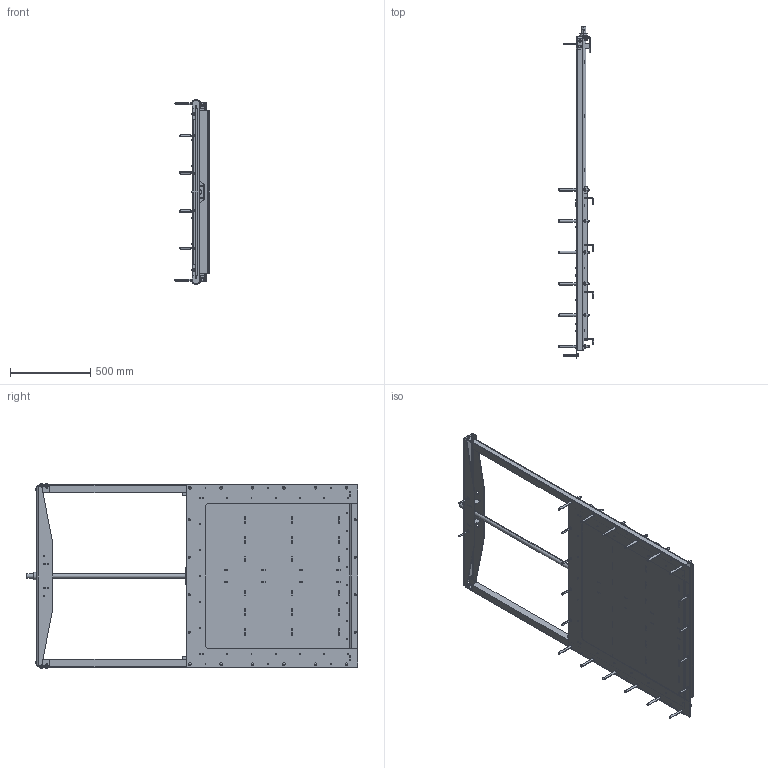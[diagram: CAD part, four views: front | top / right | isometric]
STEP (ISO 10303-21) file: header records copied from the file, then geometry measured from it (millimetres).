
FILE_DESCRIPTION (( 'STEP AP214' ), '1' );
FILE_NAME ('900x900.STEP', '2021-10-27T12:34:07', ( '' ), ( '' ), 'SwSTEP 2.0', 'SolidWorks 2020', '' );
FILE_SCHEMA (( 'AUTOMOTIVE_DESIGN' ));
Length unit declared in the file: millimetre
Products named in the file (1): 900x900
Bounding box: 219 x 2065 x 1151.8 mm (x, y, z)
Volume: 18797264.1 mm3; surface area: 5748988.7 mm2
Topology: 4 solids, 20 shells, 4155 faces, 10843 edges, 6846 vertices
Faces by surface type: cylinder 1730, plane 1458, cone 825, torus 86, sphere 32, bspline 24
Entity records: 137980 total; most frequent: CARTESIAN_POINT 38046, ORIENTED_EDGE 21418, DIRECTION 19910, EDGE_CURVE 10709, AXIS2_PLACEMENT_3D 7411, VERTEX_POINT 6822, LINE 5088, VECTOR 5088
